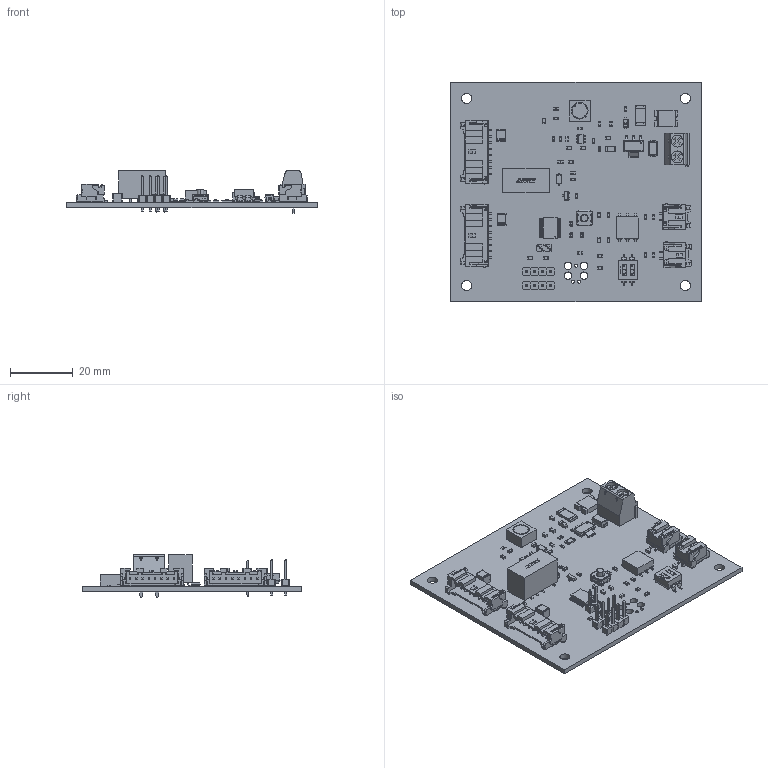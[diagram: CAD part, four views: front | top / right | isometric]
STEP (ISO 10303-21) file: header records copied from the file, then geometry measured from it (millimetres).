
FILE_DESCRIPTION(('KiCad electronic assembly'),'2;1');
FILE_NAME('.step','2026-07-30T17:58:25',('Pcbnew'),('Kicad'), 'Open CASCADE STEP processor 7.9','KiCad to STEP converter','Unknown' );
FILE_SCHEMA(('AUTOMOTIVE_DESIGN { 1 0 10303 214 1 1 1 1 }'));
Length unit declared in the file: millimetre
Products named in the file (70): .step 1; R_0603; AC0603FR-1047KL; C_0603; KEMET_X7R_C0603CCJ; L_44.88mm3_6.8x6.8mm_Bourns_SRR6038-120Y; SRR6038; 77311-118-02LF; 77311-118-02LF.step; 98471_002.step; 77310_Y16.step; R_2512; CRA2512-FZ-R001ELF; C_1210_TDK_CGA6_2.8mm_Tall; part; M7; 025002-01643-a.testprt; SM08B-PASS-TBT; TSSOP-20 [6.4x4.4x1.2,P=0.65]mm; 0ZCF0100AF2A; SOT-223-4; ASSEMBLY; Body; PinsArrayL; FilletPinR; SOT-23-3; SMD-MOSFET-P-CH-60V-900MA_SOT-23_.step; SM02B-PASS-TBT; SM02B-PASS-TBT(LF)(SN); LED_0603; LTST-C194TBKT; 5442206; BC-508X10-2_GN; EE2-3NUH; IR_TEE2MFS_L15W7.5H10; B5819W; Document; ��1; ��2; SOD-123F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
Assembly tree (107 placements, depth 5):
  .step 1
    R_0603  x20
      AC0603FR-1047KL
    C_0603  x12
      KEMET_X7R_C0603CCJ
    L_44.88mm3_6.8x6.8mm_Bourns_SRR6038-120Y
      SRR6038
    77311-118-02LF
      77311-118-02LF
        77311-118-02LF.step
          98471_002.step
          77310_Y16.step  x2
    R_2512
      CRA2512-FZ-R001ELF
    C_1210_TDK_CGA6_2.8mm_Tall  x2
      part
    M7
      025002-01643-a.testprt
    SM08B-PASS-TBT  x2
      SM08B-PASS-TBT
    TSSOP-20 [6.4x4.4x1.2,P=0.65]mm
      part
    0ZCF0100AF2A
      0ZCF0100AF2A
    SOT-223-4
      ASSEMBLY
        Body
        PinsArrayL
        FilletPinR
    SOT-23-3
      SOT-23-3
        SMD-MOSFET-P-CH-60V-900MA_SOT-23_.step
    SM02B-PASS-TBT  x2
      SM02B-PASS-TBT(LF)(SN)
    LED_0603  x4
      LTST-C194TBKT
    5442206
      BC-508X10-2_GN
        BC-508X10-2_GN
    EE2-3NUH
      IR_TEE2MFS_L15W7.5H10
    B5819W
      Document
        ��1
        ��2
    SOD-123F
      SOD123F step
        SOD123F Lead
        SOD123F lower body
        SOD123F upper body
    R_1206
      User Library-Resistor_1206
        Resistor_1206.STEP
          Pin1Body.STEP
          Pin2Body.STEP
          CeramicBody.STEP
          CoatingBody.STEP
    7914J-1-000
      7914J-1-000E
    1-1825013-0
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Bounding box: 80 x 70 x 13.55 mm (x, y, z)
Volume: 12757.9 mm3; surface area: 19139.1 mm2
Topology: 305 solids, 305 shells, 5038 faces, 12398 edges, 7886 vertices
Faces by surface type: plane 4011, cylinder 873, sphere 110, bspline 20, cone 14, torus 10
Full cylindrical faces by diameter (mm): 0.224 x1, 0.438 x1, 0.889 x4, 0.991 x3, 1.1 x2, 1.15 x8, 1.3 x2, 2.388 x4, 3.2 x4
Entity records: 92883 total; most frequent: CARTESIAN_POINT 15647, ORIENTED_EDGE 13842, DIRECTION 13416, EDGE_CURVE 6921, LINE 5632, VECTOR 5632, VERTEX_POINT 4474, AXIS2_PLACEMENT_3D 3892
